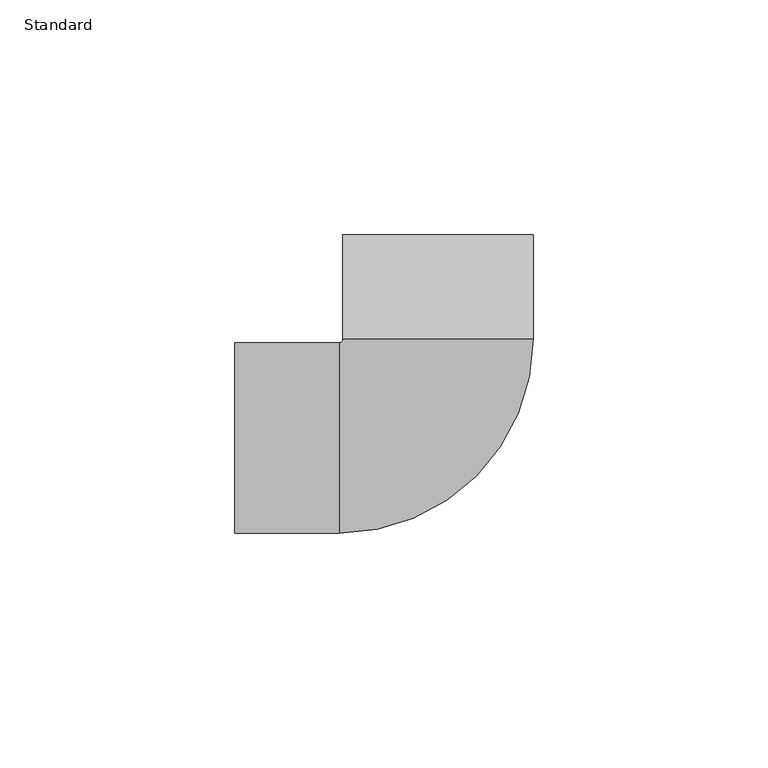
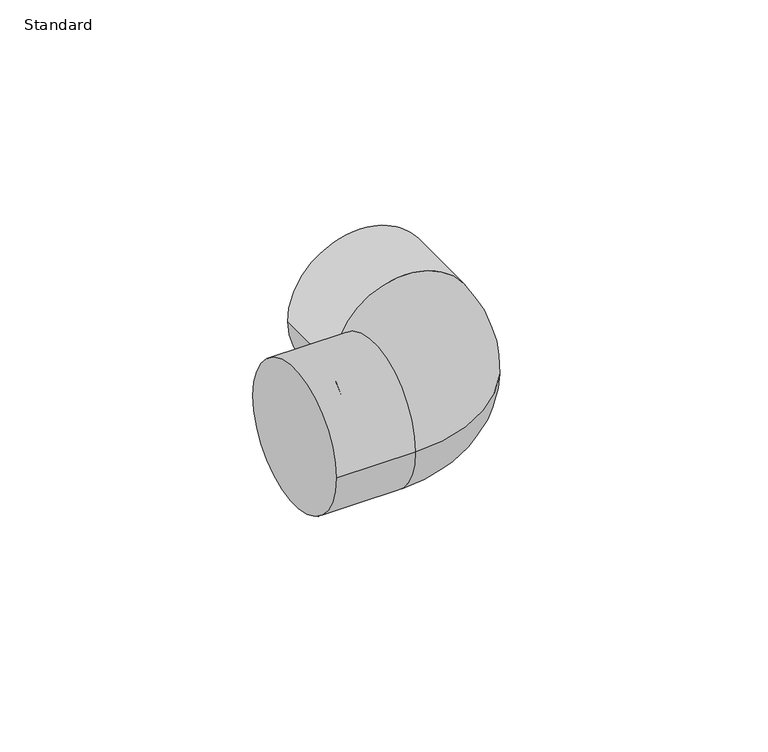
"""IFC4 building model written with IfcOpenShell, lengths in millimetres: pipe fitting geometry, M_Elbow - CPVC - Sch 40 : Standard."""

from ifc_helpers import new_model, si_unit, point, frame, origin, place, context, project, spatial, circle_curve, ellipse_curve, trimmed, source, transform, mapped, element, save
from ifc_brep_helpers import plane_surface, cylinder_surface, revolved_surface, advanced_brep


def standard_50f01f79(model_context):
    return source(origin(), model_context, "Body", "AdvancedBrep", [
        advanced_brep(
        [(-43.2628084, -20.2438, 0.0), (-43.2628084, 20.2438, 0.0), (-21.0378084, -20.2438, 0.0), (-21.0378084, 20.2438, 0.0), (-20.2440584, 21.0375597, 0.0), (20.2435416, 21.038057, 0.0), (20.2432686, 43.263057, 0.0), (-20.2443313, 43.2625597, 0.0)],
        [
            (0, 1, circle_curve(frame((-43.2628084, 0.0, 0.0), z_axis=(-1.0, 0.0, 0.0), x_axis=(0.0, 1.0, 0.0)), 20.2438)),
            (1, 0, circle_curve(frame((-43.2628084, 0.0, 0.0), z_axis=(-1.0, 0.0, 0.0), x_axis=(0.0, 1.0, 0.0)), 20.2438)),
            (0, 2),
            (2, 3, circle_curve(frame((-21.0378084, 0.0, 0.0), z_axis=(-1.0, 0.0, 0.0), x_axis=(0.0, 1.0, 0.0)), 20.2438)),
            (3, 1),
            (3, 2, circle_curve(frame((-21.0378084, 0.0, 0.0), z_axis=(-1.0, 0.0, 0.0), x_axis=(0.0, 1.0, 0.0)), 20.2438)),
            (4, 3, circle_curve(frame((-21.0378084, 21.03755, 0.0), z_axis=(0.0, 0.0, -1.0), x_axis=(0.0, -1.0, 0.0)), 0.79375)),
            (2, 5, circle_curve(frame((-21.0378084, 21.03755, 0.0), z_axis=(0.0, 0.0, 1.0), x_axis=(0.0, -1.0, 0.0)), 41.28135)),
            (5, 4, circle_curve(frame((-0.0002584, 21.0378084, 0.0), z_axis=(1.2281885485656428e-05, -0.9999999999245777, 0.0), x_axis=(-0.9999999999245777, -1.2281885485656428e-05, 0.0)), 20.2438)),
            (4, 5, circle_curve(frame((-0.0002584, 21.0378084, 0.0), z_axis=(1.2281885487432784e-05, -0.9999999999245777, 0.0), x_axis=(-0.9999999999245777, -1.2281885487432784e-05, 0.0)), 20.2438)),
            (6, 7, circle_curve(frame((-0.0005313, 43.2628084, 0.0), z_axis=(-1.2281885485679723e-05, 0.9999999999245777, 0.0), x_axis=(-0.9999999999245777, -1.2281885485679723e-05, 0.0)), 20.2438)),
            (7, 6, circle_curve(frame((-0.0005313, 43.2628084, 0.0), z_axis=(-1.2281885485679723e-05, 0.9999999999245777, 0.0), x_axis=(-0.9999999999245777, -1.2281885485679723e-05, 0.0)), 20.2438)),
            (5, 6),
            (7, 4),
        ],
        [
            plane_surface(frame((-43.2628084, 0.0, 0.0), z_axis=(-1.0, 0.0, 0.0), x_axis=(0.0, 0.0, 1.0))),
            cylinder_surface(frame((-43.2628084, 0.0, 0.0), z_axis=(-1.0, 0.0, 0.0), x_axis=(0.0, 1.0, 0.0)), 20.2438),
            revolved_surface(trimmed(ellipse_curve(frame((-21.0378084, 0.0, 0.0), z_axis=(-1.0, 0.0, 0.0), x_axis=(0.0, 1.0, 0.0)), 20.2438, 20.2438), [point((-21.0378084, -20.2438, 0.0))], [point((-21.0378084, 20.2438, 0.0))], True, "CARTESIAN"), (-21.0378084, 21.03755, 0.0), (0.0, 0.0, 1.0)),
            revolved_surface(trimmed(ellipse_curve(frame((-21.0378084, 0.0, 0.0), z_axis=(-1.0, 0.0, 0.0), x_axis=(0.0, 1.0, 0.0)), 20.2438, 20.2438), [point((-21.0378084, 20.2438, 0.0))], [point((-21.0378084, -20.2438, 0.0))], True, "CARTESIAN"), (-21.0378084, 21.03755, 0.0), (0.0, 0.0, 1.0)),
            plane_surface(frame((-0.0005313, 43.2628084, 0.0), z_axis=(-1.2281885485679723e-05, 0.9999999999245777, 0.0), x_axis=(0.0, 0.0, 1.0))),
            cylinder_surface(frame((-0.0002584, 21.0378084, 0.0), z_axis=(1.2281885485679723e-05, -0.9999999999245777, 0.0), x_axis=(-0.9999999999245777, -1.2281885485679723e-05, 0.0)), 20.2438),
        ],
        [
            (0, [[1, 2]]),
            (1, [[-1, 3, 4, 5]]),
            (1, [[-2, -5, 6, -3]]),
            (2, [[7, -4, 8, 9]]),
            (3, [[-8, -6, -7, 10]]),
            (4, [[11, 12]]),
            (5, [[-9, 13, -12, 14]]),
            (5, [[-10, -14, -11, -13]]),
        ],
    ),
    ])


if __name__ == "__main__":
    model = new_model("IFC4")
    model_context = context("Model", 3, world=origin())
    ifc_project = project(units=[si_unit("LENGTHUNIT", "METRE", prefix="MILLI")], contexts=[model_context])
    site = spatial("IfcSite", under=ifc_project)
    building = spatial("IfcBuilding", under=site)
    placement = place(None, origin())
    standard_shape = standard_50f01f79(model_context)
    element("IfcPipeFitting", 1, ObjectType="M_Elbow - CPVC - Sch 40 : Standard", at=placement, inside=building, context=model_context, shape_type="MappedRepresentation", body=[
        mapped(standard_shape, transform((0.0, 0.0, 0.0), x_axis=(1.0, 0.0, 0.0), y_axis=(0.0, 1.0, 0.0), z_axis=(0.0, 0.0, 1.0))),
    ])
    save(model, "model.ifc")
